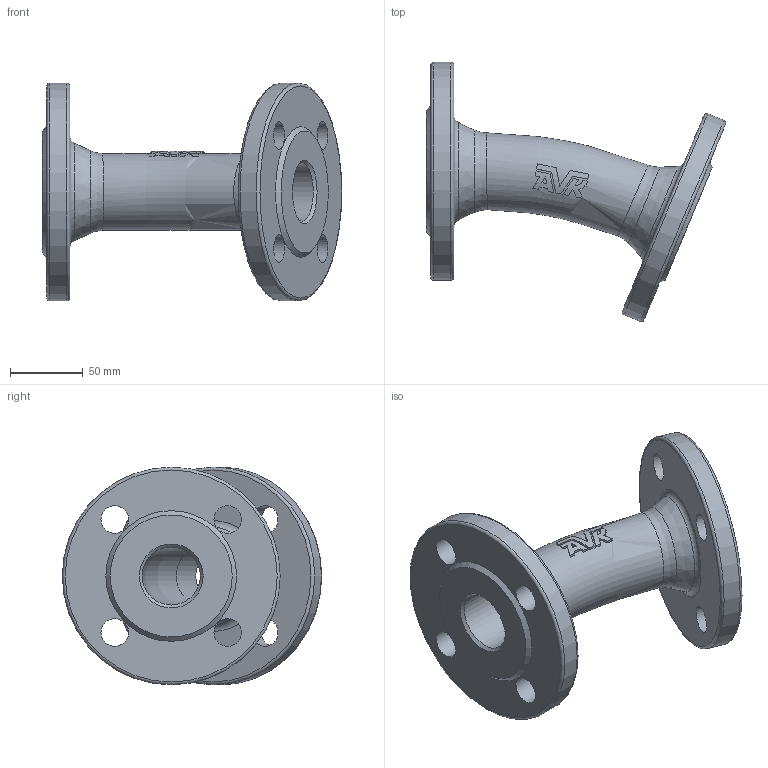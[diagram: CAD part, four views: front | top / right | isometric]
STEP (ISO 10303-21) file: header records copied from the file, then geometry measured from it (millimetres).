
FILE_DESCRIPTION (( 'STEP AP203' ), '1' );
FILE_NAME ('O_712_0210_DN40_1X_REV01.step', '2024-08-15T11:56:54', ( '' ), ( '' ), 'SwSTEP 2.0', 'SolidWorks 2022', '' );
FILE_SCHEMA (( 'CONFIG_CONTROL_DESIGN' ));
Length unit declared in the file: millimetre
Products named in the file (1): O_712_0210_DN40_1X_REV01
Bounding box: 206.23 x 178.61 x 150 mm (x, y, z)
Volume: 686436.3 mm3; surface area: 127354.1 mm2
Topology: 1 solids, 1 shells, 75 faces, 192 edges, 127 vertices
Faces by surface type: plane 41, cylinder 14, torus 12, cone 6, bspline 2
Full cylindrical faces by diameter (mm): 19 x8, 40 x2, 150 x2
Entity records: 3584 total; most frequent: CARTESIAN_POINT 1959, ORIENTED_EDGE 306, DIRECTION 261, EDGE_CURVE 153, EDGE_LOOP 129, VERTEX_POINT 116, AXIS2_PLACEMENT_3D 112, FACE_OUTER_BOUND 97
